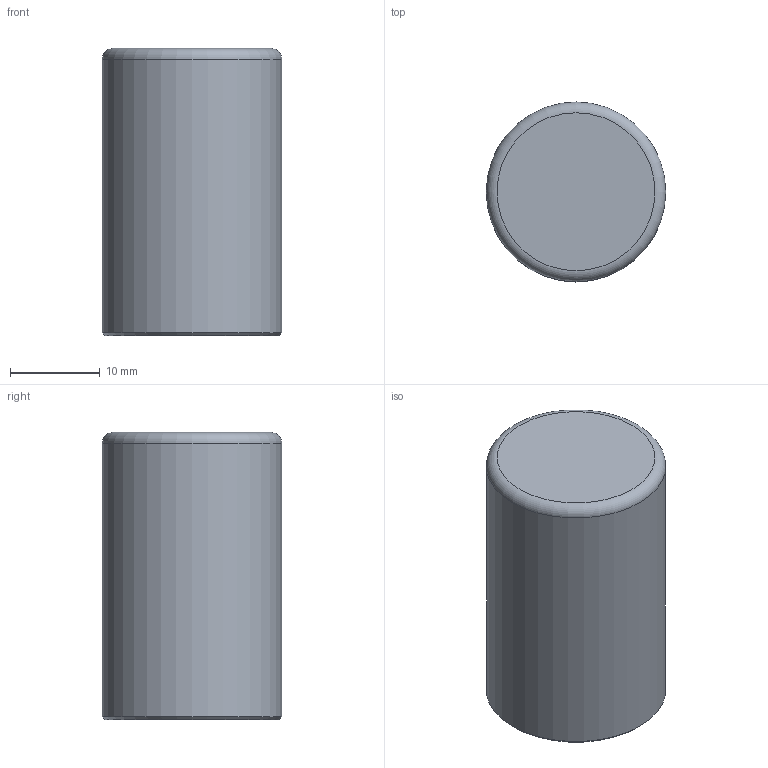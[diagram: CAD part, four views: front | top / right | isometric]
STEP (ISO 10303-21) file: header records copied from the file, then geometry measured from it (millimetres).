
FILE_DESCRIPTION(('Open CASCADE Model'),'2;1');
FILE_NAME('FL-PIN-S-knob-20','2026-10-19T21:24:09',('Author'),( 'Open CASCADE'),'Open CASCADE STEP processor 8.0','build123d', 'Unknown');
FILE_SCHEMA(('AUTOMOTIVE_DESIGN { 1 0 10303 214 1 1 1 1 }'));
Length unit declared in the file: millimetre
Products named in the file (2): FL-PIN-S-knob-20; brass_FL-PINS20__k
Assembly tree (1 placements, depth 2):
  FL-PIN-S-knob-20
    brass_FL-PINS20__k
Bounding box: 20 x 20 x 32 mm (x, y, z)
Volume: 9921.5 mm3; surface area: 2717.6 mm2
Topology: 1 solids, 1 shells, 9 faces, 13 edges, 8 vertices
Faces by surface type: plane 4, cylinder 3, cone 1, torus 1
Full cylindrical faces by diameter (mm): 3.3 x1, 5.1 x1, 20 x1
Entity records: 393 total; most frequent: DIRECTION 66, CARTESIAN_POINT 62, ORIENTED_EDGE 26, PCURVE 26, DEFINITIONAL_REPRESENTATION 26, AXIS2_PLACEMENT_3D 20, LINE 20, VECTOR 20
